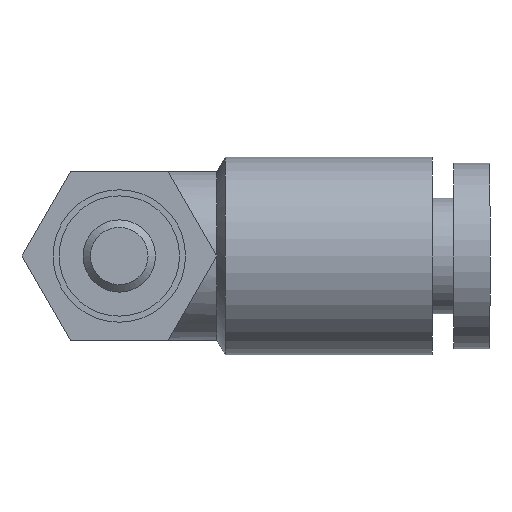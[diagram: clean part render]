
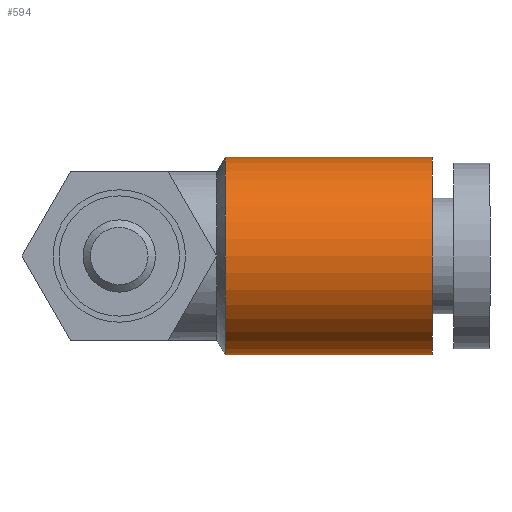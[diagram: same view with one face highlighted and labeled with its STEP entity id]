
A CAD part, front view. The second image highlights one B-rep face of the part: STEP entity #594.
In plain terms, the highlighted cylindrical face has radius 4.1 mm (diameter 8.2 mm), a full revolution.
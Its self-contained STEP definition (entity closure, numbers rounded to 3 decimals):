
#231=ORIENTED_EDGE('',*,*,#337,.F.);
#232=ORIENTED_EDGE('',*,*,#300,.T.);
#300=EDGE_CURVE('',#373,#373,#423,.T.);
#337=EDGE_CURVE('',#396,#396,#433,.T.);
#373=VERTEX_POINT('',#929);
#396=VERTEX_POINT('',#1021);
#423=CIRCLE('',#641,4.1);
#433=CIRCLE('',#674,4.1);
#478=EDGE_LOOP('',(#231));
#479=EDGE_LOOP('',(#232));
#536=FACE_BOUND('',#478,.T.);
#537=FACE_BOUND('',#479,.T.);
#563=CYLINDRICAL_SURFACE('',#673,4.1);
#594=ADVANCED_FACE('',(#536,#537),#563,.T.);
#641=AXIS2_PLACEMENT_3D('',#928,#741,#742);
#673=AXIS2_PLACEMENT_3D('',#1019,#829,#830);
#674=AXIS2_PLACEMENT_3D('',#1020,#831,#832);
#741=DIRECTION('',(1.,0.,0.));
#742=DIRECTION('',(0.,1.,0.));
#829=DIRECTION('',(1.,0.,0.));
#830=DIRECTION('',(0.,1.,0.));
#831=DIRECTION('',(1.,0.,0.));
#832=DIRECTION('',(0.,1.,0.));
#928=CARTESIAN_POINT('',(4.4,11.7,0.));
#929=CARTESIAN_POINT('',(4.4,15.8,0.));
#1019=CARTESIAN_POINT('',(15.4,11.7,0.));
#1020=CARTESIAN_POINT('',(13.,11.7,0.));
#1021=CARTESIAN_POINT('',(13.,15.8,0.));
